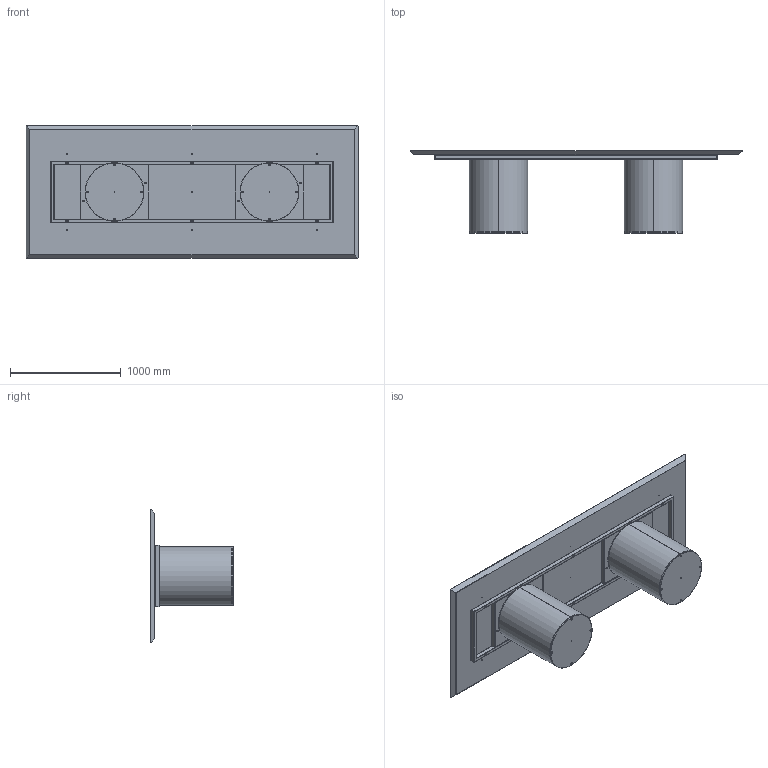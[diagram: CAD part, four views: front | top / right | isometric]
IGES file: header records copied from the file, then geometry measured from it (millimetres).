
Start section: SolidWorks IGES file using analytic representation for surfaces
Global section: file name: Y:\eforma\TECNICO\SOLIDWORKS\E-FORMA\1-TAVOLI\CILINDRO\02 parts\CI24W.IGS; native system: SolidWorks 2022; preprocessor: SolidWorks 2022; author: eforma.tech; date: 240808.091001; units: millimetre
Bounding box: 3000 x 748 x 1200 mm (x, y, z)
Volume: 146328128.5 mm3; surface area: 16422755.5 mm2
Topology: 34 solids, 34 shells, 1244 faces, 2866 edges, 1623 vertices
Faces by surface type: revolution 730, plane 514
